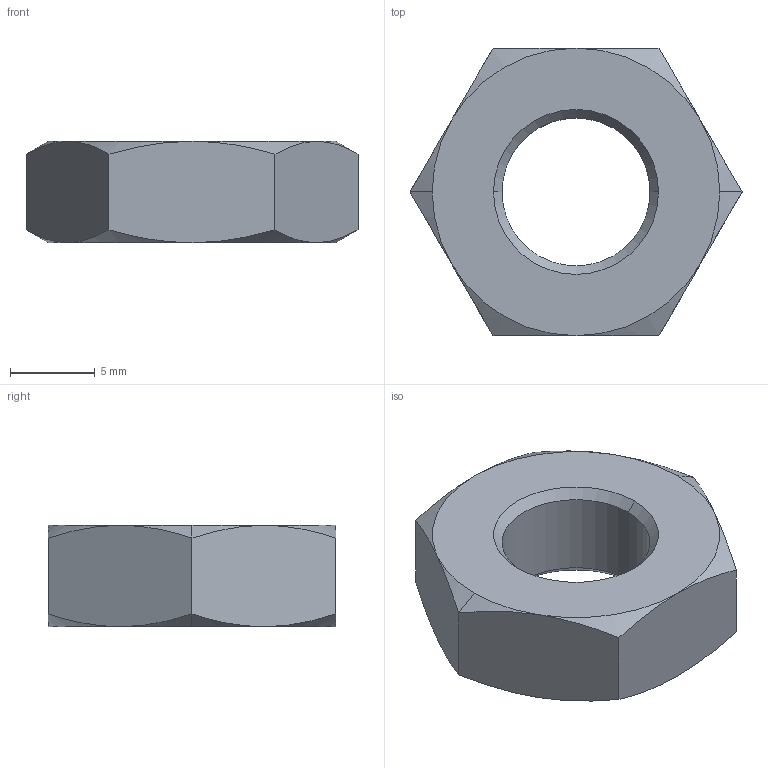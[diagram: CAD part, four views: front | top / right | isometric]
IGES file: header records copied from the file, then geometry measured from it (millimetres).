
Global section: file name: No Iges File Name specified; native system: AutoDesk Inventor R6.0; preprocessor: AutoDesk Inventor Iges Exporter R6.0; author: No Author specified; organization: No Organization specified; date: 20030408.082752; units: millimetre
Bounding box: 19.63 x 17 x 6 mm (x, y, z)
Volume: 1122.6 mm3; surface area: 859.2 mm2
Topology: 1 solids, 1 shells, 30 faces, 64 edges, 36 vertices
Faces by surface type: cone 16, plane 8, bspline 4, revolution 2
